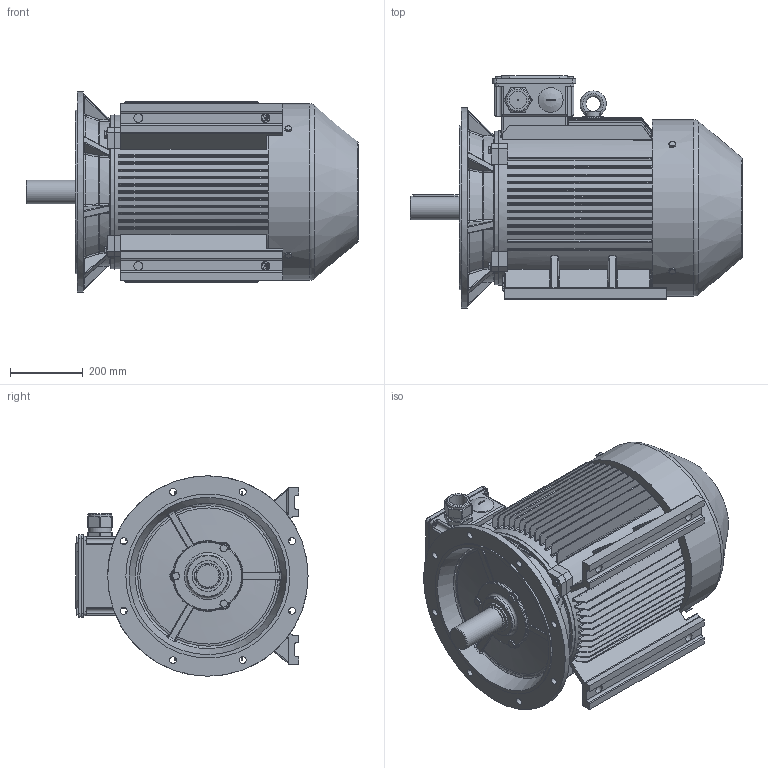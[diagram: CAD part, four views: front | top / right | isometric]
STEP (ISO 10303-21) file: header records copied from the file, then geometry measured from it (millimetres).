
FILE_DESCRIPTION((''),'2;1');
FILE_NAME('U:\Inventor 2012\121 - OMEC MOTORS\1408 - MOTOREN CAD BIBLIOTHEEK\1408 - Gereed\Step files\Step zonder Omec logo\250\OMT1-250M B35 - 6 Pole IE3.stp','2015-02-06T12:52:49',('Freek'),(''),'Autodesk Inventor 2012','Autodesk Inventor 2012','');
FILE_SCHEMA(('AUTOMOTIVE_DESIGN { 1 0 10303 214 1 1 1 1 }'));
Length unit declared in the file: millimetre
Products named in the file (1): 1408-193
Bounding box: 911.1 x 637.1 x 550 mm (x, y, z)
Volume: 119747374.3 mm3; surface area: 4053918.3 mm2
Topology: 5 solids, 23 shells, 2716 faces, 6624 edges, 4264 vertices
Faces by surface type: plane 1867, cylinder 434, cone 223, bspline 146, torus 46
Full cylindrical faces by diameter (mm): 1 x2, 8 x1, 9.188 x4, 10 x12, 11.053 x4, 11.459 x3, 12 x17, 15.4 x8, 17.2 x7, 19 x8, 24 x4, 48 x1, 60 x1, 63 x1, 65 x1, 66 x1, 68 x1, 70 x1, 85 x1, 85.2 x1, 115 x1, 250 x1, 422 x1, 450 x1, 484 x1, 550 x1
Entity records: 89026 total; most frequent: CARTESIAN_POINT 24483, ORIENTED_EDGE 12966, DIRECTION 11923, EDGE_CURVE 6483, VECTOR 4385, LINE 4385, VERTEX_POINT 4232, AXIS2_PLACEMENT_3D 3769
